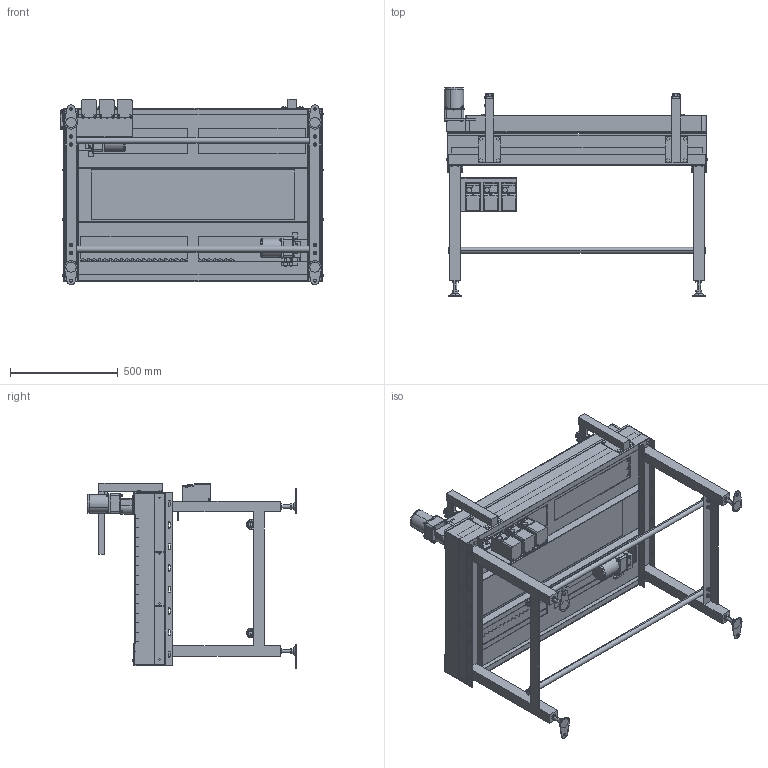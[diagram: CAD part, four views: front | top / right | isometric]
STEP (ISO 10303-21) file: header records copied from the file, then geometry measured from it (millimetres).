
FILE_DESCRIPTION( (''), '2;1');
FILE_NAME ('SGA-304x3-600-L-IVH-15-A.stp','2025-01-31T09:31:55',(''),(''),'spGate 20.6.2 (****-****-****-****)','','');
FILE_SCHEMA (('AUTOMOTIVE_DESIGN'));
Length unit declared in the file: millimetre
Products named in the file (94): NewModel; TEMP_X_T-prt0; TEMP_X_T-prt1; TEMP_X_T-prt2; TEMP_X_T-prt3; TEMP_X_T-prt4; TEMP_X_T-prt5; TEMP_X_T-prt6; TEMP_X_T-prt7; TEMP_X_T-prt8; TEMP_X_T-prt9; TEMP_X_T-prt10; TEMP_X_T-prt11; TEMP_X_T-prt12; TEMP_X_T-prt13; TEMP_X_T-prt14; TEMP_X_T-prt15; TEMP_X_T-prt16; TEMP_X_T-prt17; TEMP_X_T-prt18; TEMP_X_T-prt19; TEMP_X_T-prt20; TEMP_X_T-prt21; TEMP_X_T-prt22; TEMP_X_T-prt23; TEMP_X_T-prt24; TEMP_X_T-prt25; TEMP_X_T-prt26; TEMP_X_T-prt27; TEMP_X_T-prt28; TEMP_X_T-prt29; TEMP_X_T-prt30; TEMP_X_T-prt31; TEMP_X_T-prt32; TEMP_X_T-prt33; TEMP_X_T-prt34; TEMP_X_T-prt35; TEMP_X_T-prt36; TEMP_X_T-prt37; TEMP_X_T-prt38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
Assembly tree (93 placements, depth 2):
  NewModel
    TEMP_X_T-prt0
    TEMP_X_T-prt1
    TEMP_X_T-prt2
    TEMP_X_T-prt3
    TEMP_X_T-prt4
    TEMP_X_T-prt5
    TEMP_X_T-prt6
    TEMP_X_T-prt7
    TEMP_X_T-prt8
    TEMP_X_T-prt9
    TEMP_X_T-prt10
    TEMP_X_T-prt11
    TEMP_X_T-prt12
    TEMP_X_T-prt13
    TEMP_X_T-prt14
    TEMP_X_T-prt15
    TEMP_X_T-prt16
    TEMP_X_T-prt17
    TEMP_X_T-prt18
    TEMP_X_T-prt19
    TEMP_X_T-prt20
    TEMP_X_T-prt21
    TEMP_X_T-prt22
    TEMP_X_T-prt23
    TEMP_X_T-prt24
    TEMP_X_T-prt25
    TEMP_X_T-prt26
    TEMP_X_T-prt27
    TEMP_X_T-prt28
    TEMP_X_T-prt29
    TEMP_X_T-prt30
    TEMP_X_T-prt31
    TEMP_X_T-prt32
    TEMP_X_T-prt33
    TEMP_X_T-prt34
    TEMP_X_T-prt35
    TEMP_X_T-prt36
    TEMP_X_T-prt37
    TEMP_X_T-prt38
    TEMP_X_T-prt39
    TEMP_X_T-prt40
    TEMP_X_T-prt41
    TEMP_X_T-prt42
    TEMP_X_T-prt43
    TEMP_X_T-prt44
    TEMP_X_T-prt45
    TEMP_X_T-prt46
    TEMP_X_T-prt47
    TEMP_X_T-prt48
    TEMP_X_T-prt49
    TEMP_X_T-prt50
    TEMP_X_T-prt51
    TEMP_X_T-prt52
    TEMP_X_T-prt53
    TEMP_X_T-prt54
    TEMP_X_T-prt55
    TEMP_X_T-prt56
    TEMP_X_T-prt57
    TEMP_X_T-prt58
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Bounding box: 1220.8 x 969.4 x 860 mm (x, y, z)
Volume: 34678184.4 mm3; surface area: 8088911.7 mm2
Topology: 93 solids, 93 shells, 3500 faces, 8729 edges, 5604 vertices
Faces by surface type: plane 2296, cylinder 825, bspline 363, sphere 16
Entity records: 180447 total; most frequent: CARTESIAN_POINT 25938, ORIENTED_EDGE 17362, DIRECTION 16225, COLOUR_RGB 12274, PRESENTATION_STYLE_ASSIGNMENT 12274, STYLED_ITEM 12274, EDGE_CURVE 8681, DRAUGHTING_PRE_DEFINED_CURVE_FONT 8681
